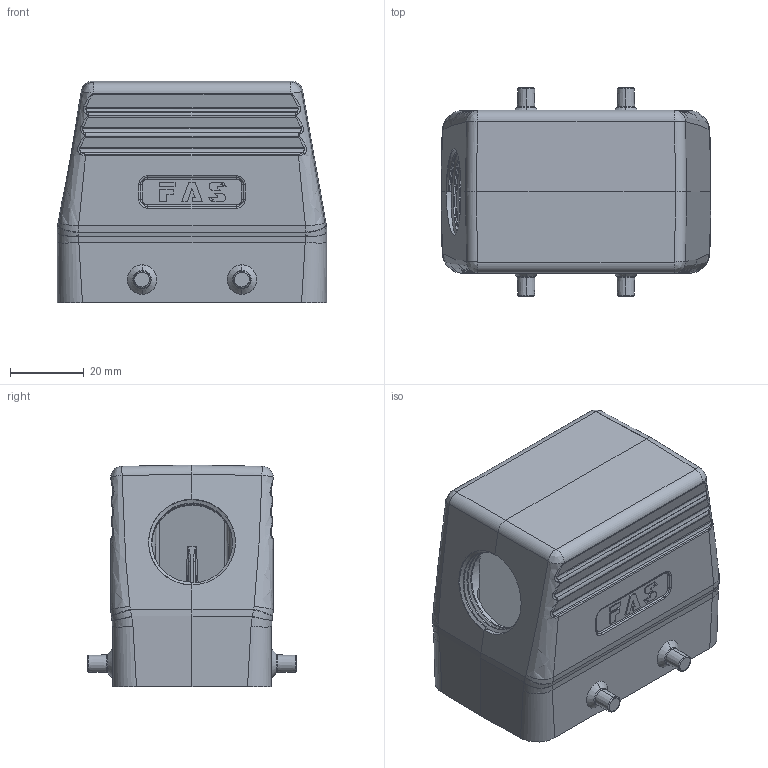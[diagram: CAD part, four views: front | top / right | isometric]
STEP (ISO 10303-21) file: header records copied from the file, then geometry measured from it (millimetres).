
FILE_DESCRIPTION (( 'STEP AP203' ), '1' );
FILE_NAME ('H10B-TS-M25.STEP', '2020-11-21T02:45:37', ( '' ), ( '' ), 'SwSTEP 2.0', 'SolidWorks 2016', '' );
FILE_SCHEMA (( 'CONFIG_CONTROL_DESIGN' ));
Length unit declared in the file: millimetre
Products named in the file (1): H10B-TS-M25
Bounding box: 73 x 56.4 x 60 mm (x, y, z)
Volume: 60192.9 mm3; surface area: 28631.9 mm2
Topology: 1 solids, 1 shells, 561 faces, 1386 edges, 858 vertices
Faces by surface type: bspline 188, plane 180, cylinder 148, cone 45
Entity records: 26203 total; most frequent: CARTESIAN_POINT 14549, ORIENTED_EDGE 2772, DIRECTION 1885, EDGE_CURVE 1386, VERTEX_POINT 858, AXIS2_PLACEMENT_3D 661, EDGE_LOOP 594, LINE 563
